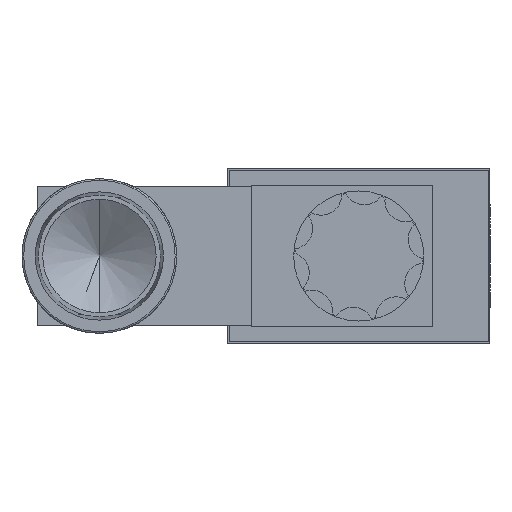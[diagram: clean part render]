
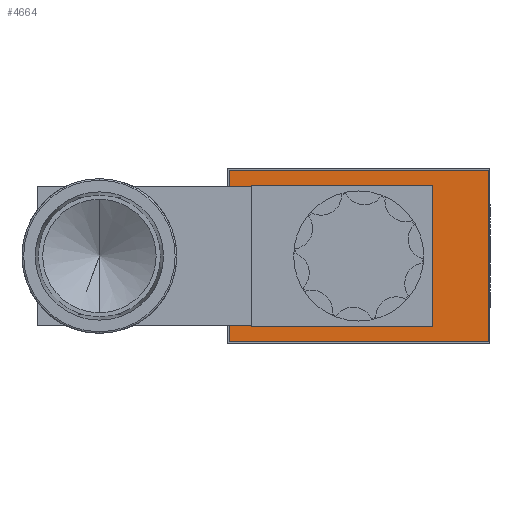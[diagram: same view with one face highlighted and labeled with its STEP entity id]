
A CAD part, left-side view. The second image highlights one B-rep face of the part: STEP entity #4664.
In plain terms, the highlighted planar face has unit normal (-1, 0, 0).
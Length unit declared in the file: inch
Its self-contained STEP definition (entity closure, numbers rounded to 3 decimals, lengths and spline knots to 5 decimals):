
#104 = VERTEX_POINT ( 'NONE', #3479 ) ;
#355 = CARTESIAN_POINT ( 'NONE',  ( -2.285, 0.7875, 0.5215 ) ) ;
#369 = ORIENTED_EDGE ( 'NONE', *, *, #4888, .T. ) ;
#767 = CARTESIAN_POINT ( 'NONE',  ( -2.285, -0.7875, 0.5215 ) ) ;
#846 = CARTESIAN_POINT ( 'NONE',  ( -2.285, 0.7875, -0.5215 ) ) ;
#864 = EDGE_LOOP ( 'NONE', ( #2781, #4189 ) ) ;
#892 = VECTOR ( 'NONE', #5406, 39.37008 ) ;
#1013 = VERTEX_POINT ( 'NONE', #1044 ) ;
#1044 = CARTESIAN_POINT ( 'NONE',  ( -2.285, 0.7875, 0.5215 ) ) ;
#1062 = VERTEX_POINT ( 'NONE', #1664 ) ;
#1109 = EDGE_CURVE ( 'NONE', #1062, #2801, #4303, .T. ) ;
#1124 = CARTESIAN_POINT ( 'NONE',  ( -2.285, 0., -0.175 ) ) ;
#1140 = EDGE_CURVE ( 'NONE', #1013, #104, #2614, .T. ) ;
#1167 = CIRCLE ( 'NONE', #3705, 0.175 ) ;
#1212 = DIRECTION ( 'NONE',  ( 0., 0., 1. ) ) ;
#1289 = EDGE_LOOP ( 'NONE', ( #4320, #2884, #5073, #369 ) ) ;
#1295 = CARTESIAN_POINT ( 'NONE',  ( -2.285, -0.7875, 0.5215 ) ) ;
#1350 = DIRECTION ( 'NONE',  ( -1., 0., 0. ) ) ;
#1357 = CARTESIAN_POINT ( 'NONE',  ( -2.285, -0.7875, -0.5215 ) ) ;
#1414 = DIRECTION ( 'NONE',  ( -1., 0., 0. ) ) ;
#1425 = VECTOR ( 'NONE', #1665, 39.37008 ) ;
#1664 = CARTESIAN_POINT ( 'NONE',  ( -2.285, 0., 0.175 ) ) ;
#1665 = DIRECTION ( 'NONE',  ( 0., 1., 0. ) ) ;
#1957 = CARTESIAN_POINT ( 'NONE',  ( -2.285, 0., 0. ) ) ;
#2112 = DIRECTION ( 'NONE',  ( 0., -1., 0. ) ) ;
#2182 = FACE_BOUND ( 'NONE', #864, .T. ) ;
#2292 = DIRECTION ( 'NONE',  ( 0., 0., 1. ) ) ;
#2526 = VERTEX_POINT ( 'NONE', #1357 ) ;
#2614 = LINE ( 'NONE', #355, #892 ) ;
#2781 = ORIENTED_EDGE ( 'NONE', *, *, #5162, .F. ) ;
#2801 = VERTEX_POINT ( 'NONE', #1124 ) ;
#2884 = ORIENTED_EDGE ( 'NONE', *, *, #3462, .T. ) ;
#3086 = DIRECTION ( 'NONE',  ( 0., 0., 1. ) ) ;
#3139 = LINE ( 'NONE', #4231, #5082 ) ;
#3252 = AXIS2_PLACEMENT_3D ( 'NONE', #4116, #1350, #1212 ) ;
#3462 = EDGE_CURVE ( 'NONE', #104, #2526, #4605, .T. ) ;
#3479 = CARTESIAN_POINT ( 'NONE',  ( -2.285, 0.7875, -0.5215 ) ) ;
#3582 = VECTOR ( 'NONE', #2112, 39.37008 ) ;
#3609 = DIRECTION ( 'NONE',  ( -1., 0., 0. ) ) ;
#3705 = AXIS2_PLACEMENT_3D ( 'NONE', #1957, #3609, #5219 ) ;
#3836 = EDGE_CURVE ( 'NONE', #2526, #4853, #3139, .T. ) ;
#3848 = CARTESIAN_POINT ( 'NONE',  ( -2.285, 0.7875, -0.5215 ) ) ;
#3898 = PLANE ( 'NONE',  #4397 ) ;
#4116 = CARTESIAN_POINT ( 'NONE',  ( -2.285, 0., 0. ) ) ;
#4189 = ORIENTED_EDGE ( 'NONE', *, *, #1109, .F. ) ;
#4231 = CARTESIAN_POINT ( 'NONE',  ( -2.285, -0.7875, -0.5215 ) ) ;
#4303 = CIRCLE ( 'NONE', #3252, 0.175 ) ;
#4320 = ORIENTED_EDGE ( 'NONE', *, *, #1140, .T. ) ;
#4397 = AXIS2_PLACEMENT_3D ( 'NONE', #3848, #1414, #3086 ) ;
#4526 = LINE ( 'NONE', #767, #1425 ) ;
#4605 = LINE ( 'NONE', #846, #3582 ) ;
#4664 = ADVANCED_FACE ( 'NONE', ( #5204, #2182 ), #3898, .T. ) ;
#4853 = VERTEX_POINT ( 'NONE', #1295 ) ;
#4888 = EDGE_CURVE ( 'NONE', #4853, #1013, #4526, .T. ) ;
#5073 = ORIENTED_EDGE ( 'NONE', *, *, #3836, .T. ) ;
#5082 = VECTOR ( 'NONE', #2292, 39.37008 ) ;
#5162 = EDGE_CURVE ( 'NONE', #2801, #1062, #1167, .T. ) ;
#5204 = FACE_OUTER_BOUND ( 'NONE', #1289, .T. ) ;
#5219 = DIRECTION ( 'NONE',  ( 0., 0., 1. ) ) ;
#5406 = DIRECTION ( 'NONE',  ( 0., 0., -1. ) ) ;
